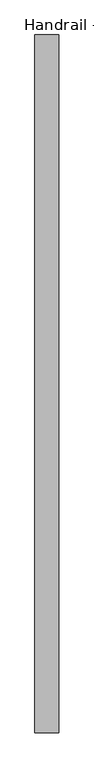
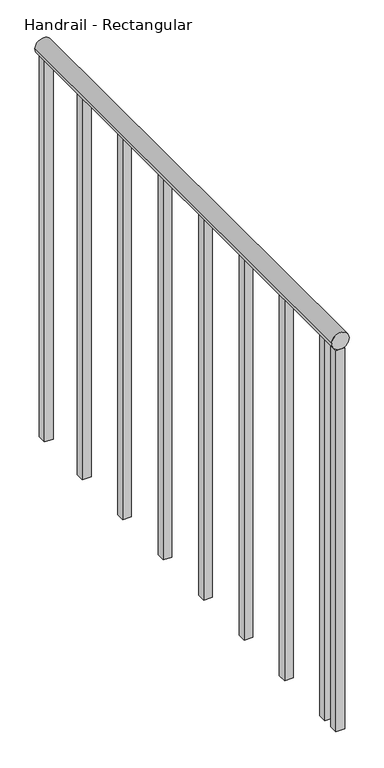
"""IFC4 building model written with IfcOpenShell, lengths in millimetres: railing geometry, Handrail - Rectangular."""

import ifcopenshell
import ifcopenshell.guid

model = None  # the IFC model being written
_history = None  # IfcOwnerHistory: only IFC2X3 demands one
_inside = {}  # id of a spatial element -> (the spatial element, [elements in it])
_under = {}  # id of a project, library or spatial element -> (it, [spatial elements below it])
_declared = {}  # id of a project -> (the project, [libraries it declares])
_typed = {}  # id of a type object -> (the type object, [elements of that type])
_made_of = {}  # id of a material, layer set ... -> (it, [elements and type objects made of it])


def new_model(schema):
    """Start an empty IFC model of exactly this schema.

    Asked for "IFC4X3", IfcOpenShell would pick the latest addendum, in which some entities
    have other attributes; the version numbers below select the first issue.
    IFC2X3 requires an IfcOwnerHistory on every rooted entity: one is made here for all.
    """
    global model, _history
    if schema == "IFC4X3":
        model = ifcopenshell.file(schema_version=(4, 3, 0, 0))
    else:
        model = ifcopenshell.file(schema=schema)
    _inside.clear()
    _under.clear()
    _declared.clear()
    _typed.clear()
    _made_of.clear()
    _history = None
    if model.schema == "IFC2X3":
        org = make("IfcOrganization", Name="unknown")
        user = make(
            "IfcPersonAndOrganization",
            ThePerson=make("IfcPerson", FamilyName="unknown"),
            TheOrganization=org,
        )
        app = make(
            "IfcApplication",
            ApplicationDeveloper=org,
            Version="unknown",
            ApplicationFullName="unknown",
            ApplicationIdentifier="unknown",
        )
        _history = make(
            "IfcOwnerHistory",
            OwningUser=user,
            OwningApplication=app,
            ChangeAction="ADDED",
            CreationDate=0,
        )
    return model


def make(cls, **values):
    """One entity of the class cls with the attributes given. An attribute that is None is left unset."""
    return model.create_entity(
        cls, **{name: value for name, value in values.items() if value is not None}
    )


def rooted(cls, **values):
    """An entity with a GlobalId (a new one), such as an element, a storey or a relation."""
    return make(cls, GlobalId=ifcopenshell.guid.new(), OwnerHistory=_history, **values)


def si_unit(unit_type, name, prefix=None):
    """IfcSIUnit, for example si_unit("LENGTHUNIT", "METRE", prefix="MILLI")."""
    return make("IfcSIUnit", UnitType=unit_type, Prefix=prefix, Name=name)


def assignment(units):
    """IfcUnitAssignment: the units of a project."""
    return None if units is None else make("IfcUnitAssignment", Units=units)


def point(xyz):
    """IfcCartesianPoint."""
    return None if xyz is None else make("IfcCartesianPoint", Coordinates=xyz)


def direction(xyz):
    """IfcDirection."""
    return None if xyz is None else make("IfcDirection", DirectionRatios=xyz)


def frame(location, z_axis=None, x_axis=None):
    """IfcAxis2Placement3D, a coordinate frame: its origin and axes. An axis left out is left unset."""
    return make(
        "IfcAxis2Placement3D",
        Location=point(location),
        Axis=direction(z_axis),
        RefDirection=direction(x_axis),
    )


def frame_2d(location, x_axis=None):
    """IfcAxis2Placement2D, a coordinate frame in the plane: its origin and x axis."""
    return make(
        "IfcAxis2Placement2D", Location=point(location), RefDirection=direction(x_axis)
    )


def origin():
    """The frame at (0, 0, 0) with its axes left unset."""
    return frame((0.0, 0.0, 0.0))


def place(relative_to, where):
    """IfcLocalPlacement: puts the frame where relative to a parent placement (None: the world)."""
    return make(
        "IfcLocalPlacement", PlacementRelTo=relative_to, RelativePlacement=where
    )


def context(
    kind, dimensions, precision=None, world=None, true_north=None, identifier=None
):
    """IfcGeometricRepresentationContext, for example the 3D "Model" context."""
    return make(
        "IfcGeometricRepresentationContext",
        ContextIdentifier=identifier,
        ContextType=kind,
        CoordinateSpaceDimension=dimensions,
        Precision=precision,
        WorldCoordinateSystem=world,
        TrueNorth=true_north,
    )


def project(units=None, contexts=None):
    """IfcProject with its units and contexts."""
    return rooted(
        "IfcProject",
        Name="project",
        RepresentationContexts=contexts,
        UnitsInContext=assignment(units),
    )


def spatial(cls, under=None, at=None, **own):
    """A site, building, storey or space (cls), placed at a placement, below another one or the project."""
    s = rooted(cls, ObjectPlacement=at, **own)
    if under is not None:
        _under.setdefault(under.id(), (under, []))[1].append(s)
    return s


def polyline(points):
    """IfcPolyline through the points."""
    return make("IfcPolyline", Points=[point(p) for p in points])


def circle_curve(where, radius):
    """IfcCircle in the frame where."""
    return make("IfcCircle", Position=where, Radius=radius)


def trimmed(basis, trim1, trim2, sense, master):
    """IfcTrimmedCurve: the piece of a basis curve between two trims."""
    return make(
        "IfcTrimmedCurve",
        BasisCurve=basis,
        Trim1=trim1,
        Trim2=trim2,
        SenseAgreement=sense,
        MasterRepresentation=master,
    )


def segment(curve, same_sense, transition):
    """IfcCompositeCurveSegment."""
    return make(
        "IfcCompositeCurveSegment",
        Transition=transition,
        SameSense=same_sense,
        ParentCurve=curve,
    )


def composite_curve(segments, self_intersect=None):
    """IfcCompositeCurve: segments joined end to end."""
    return make("IfcCompositeCurve", Segments=segments, SelfIntersect=self_intersect)


def outline(outer, holes=None, kind="AREA"):
    """IfcArbitraryClosedProfileDef: a profile drawn as a closed curve; with holes, ...WithVoids."""
    if holes is None:
        return make("IfcArbitraryClosedProfileDef", ProfileType=kind, OuterCurve=outer)
    return make(
        "IfcArbitraryProfileDefWithVoids",
        ProfileType=kind,
        OuterCurve=outer,
        InnerCurves=holes,
    )


def extrude(swept, where, along, depth):
    """IfcExtrudedAreaSolid: the profile swept, set in the frame where, extruded along a direction by depth."""
    return make(
        "IfcExtrudedAreaSolid",
        SweptArea=swept,
        Position=where,
        ExtrudedDirection=direction(along),
        Depth=depth,
    )


def shape(context_of_items, identifier, shape_type, items):
    """IfcShapeRepresentation: the items that make up one representation, for example the "Body"."""
    return make(
        "IfcShapeRepresentation",
        ContextOfItems=context_of_items,
        RepresentationIdentifier=identifier,
        RepresentationType=shape_type,
        Items=items,
    )


def source(mapping_origin, context_of_items, identifier, shape_type, items):
    """IfcRepresentationMap: a shape defined once, which mapped items show again and again."""
    return make(
        "IfcRepresentationMap",
        MappingOrigin=mapping_origin,
        MappedRepresentation=shape(context_of_items, identifier, shape_type, items),
    )


def transform(
    local_origin,
    x_axis=None,
    y_axis=None,
    z_axis=None,
    scale=None,
    scale2=None,
    scale3=None,
    uniform=True,
):
    """IfcCartesianTransformationOperator3D, or its non-uniform kind. x_axis, y_axis, z_axis: its Axis1, 2, 3."""
    if uniform:
        return make(
            "IfcCartesianTransformationOperator3D",
            Axis1=direction(x_axis),
            Axis2=direction(y_axis),
            LocalOrigin=point(local_origin),
            Scale=scale,
            Axis3=direction(z_axis),
        )
    return make(
        "IfcCartesianTransformationOperator3DnonUniform",
        Axis1=direction(x_axis),
        Axis2=direction(y_axis),
        LocalOrigin=point(local_origin),
        Scale=scale,
        Axis3=direction(z_axis),
        Scale2=scale2,
        Scale3=scale3,
    )


def mapped(mapping_source, mapping_target):
    """IfcMappedItem: shows the shape of a source again, moved by a transform."""
    return make(
        "IfcMappedItem", MappingSource=mapping_source, MappingTarget=mapping_target
    )


def made_of(thing, what):
    """Note that an element or type object is made of a material, layer set ...; save() writes the relation."""
    if what is not None:
        _made_of.setdefault(what.id(), (what, []))[1].append(thing)
    return thing


def element(
    cls,
    number,
    at=None,
    inside=None,
    cuts=None,
    type_object=None,
    material=None,
    context=None,
    identifier="Body",
    shape_type=None,
    held_by="IfcProductDefinitionShape",
    body=None,
    shapes=None,
    **own,
):
    """One element of the class cls, such as IfcWall. Its Tag is "e" and its number.

    at: its placement. inside: the storey or other place that contains it. cuts: it is an
    opening in that element (IfcRelVoidsElement). A single representation is given by context,
    identifier, shape_type and body (its items); several are given by shapes. held_by: the class
    of the entity that holds the representations. save() writes the other relations.
    """
    e = rooted(cls, Tag="e%d" % number, ObjectPlacement=at, **own)
    if body is not None:
        shapes = [shape(context, identifier, shape_type, body)]
    if shapes is not None:
        e.Representation = make(held_by, Representations=shapes)
    if inside is not None:
        _inside.setdefault(inside.id(), (inside, []))[1].append(e)
    if cuts is not None:
        rooted(
            "IfcRelVoidsElement", RelatingBuildingElement=cuts, RelatedOpeningElement=e
        )
    if type_object is not None:
        _typed.setdefault(type_object.id(), (type_object, []))[1].append(e)
    return made_of(e, material)


def aggregate(whole, parts):
    """IfcRelAggregates: a whole, such as a stair, and the parts it consists of."""
    return rooted("IfcRelAggregates", RelatingObject=whole, RelatedObjects=parts)


def save(model, path):
    """Write the relations noted so far, then the file.

    IfcRelAggregates (storeys below a building ...), IfcRelContainedInSpatialStructure (elements
    in a storey), IfcRelDefinesByType, IfcRelAssociatesMaterial and IfcRelDeclares: one each for
    every whole, place, type object, material and project.
    """
    for whole, parts in _under.values():
        aggregate(whole, parts)
    for where, things in _inside.values():
        rooted(
            "IfcRelContainedInSpatialStructure",
            RelatedElements=things,
            RelatingStructure=where,
        )
    for kind, things in _typed.values():
        rooted("IfcRelDefinesByType", RelatedObjects=things, RelatingType=kind)
    for what, things in _made_of.values():
        rooted("IfcRelAssociatesMaterial", RelatedObjects=things, RelatingMaterial=what)
    for by, libraries in _declared.values():
        rooted("IfcRelDeclares", RelatingContext=by, RelatedDefinitions=libraries)
    model.write(path)


def handrail_rectangular_fe4f68d6(model_context):
    return source(origin(), model_context, "Body", "SweptSolid", [
        extrude(outline(composite_curve([segment(trimmed(circle_curve(frame_2d((10039.35, -11418.8589563)), 19.05), [point((10039.35, -11399.8089563))], [point((10039.35, -11437.9089563))], False, "CARTESIAN"), True, "CONTINUOUS"), segment(trimmed(circle_curve(frame_2d((10039.35, -11418.8589563)), 19.05), [point((10039.35, -11437.9089563))], [point((10039.35, -11399.8089563))], False, "CARTESIAN"), True, "CONTINUOUS")], self_intersect=False)), frame((0.0, 10624.0316867, 0.0), z_axis=(0.0, 1.0, 0.0), x_axis=(0.0, 0.0, 1.0)), (0.0, 0.0, 1.0), 1117.6),
        extrude(outline(polyline([(-11428.3839563, 10684.3566867), (-11409.3339563, 10684.3566867), (-11409.3339563, 10665.3066867), (-11428.3839563, 10665.3066867), (-11428.3839563, 10684.3566867)])), frame((0.0, 0.0, 9144.0), z_axis=(0.0, 0.0, 1.0), x_axis=(1.0, 0.0, 0.0)), (0.0, 0.0, 1.0), 876.3),
        extrude(outline(polyline([(-11428.3839563, 10836.7566867), (-11409.3339563, 10836.7566867), (-11409.3339563, 10817.7066867), (-11428.3839563, 10817.7066867), (-11428.3839563, 10836.7566867)])), frame((0.0, 0.0, 9144.0), z_axis=(0.0, 0.0, 1.0), x_axis=(1.0, 0.0, 0.0)), (0.0, 0.0, 1.0), 876.3),
        extrude(outline(polyline([(-11428.3839563, 10989.1566867), (-11409.3339563, 10989.1566867), (-11409.3339563, 10970.1066867), (-11428.3839563, 10970.1066867), (-11428.3839563, 10989.1566867)])), frame((0.0, 0.0, 9144.0), z_axis=(0.0, 0.0, 1.0), x_axis=(1.0, 0.0, 0.0)), (0.0, 0.0, 1.0), 876.3),
        extrude(outline(polyline([(-11428.3839563, 11141.5566867), (-11409.3339563, 11141.5566867), (-11409.3339563, 11122.5066867), (-11428.3839563, 11122.5066867), (-11428.3839563, 11141.5566867)])), frame((0.0, 0.0, 9144.0), z_axis=(0.0, 0.0, 1.0), x_axis=(1.0, 0.0, 0.0)), (0.0, 0.0, 1.0), 876.3),
        extrude(outline(polyline([(-11428.3839563, 11293.9566867), (-11409.3339563, 11293.9566867), (-11409.3339563, 11274.9066867), (-11428.3839563, 11274.9066867), (-11428.3839563, 11293.9566867)])), frame((0.0, 0.0, 9144.0), z_axis=(0.0, 0.0, 1.0), x_axis=(1.0, 0.0, 0.0)), (0.0, 0.0, 1.0), 876.3),
        extrude(outline(polyline([(-11428.3839563, 11446.3566867), (-11409.3339563, 11446.3566867), (-11409.3339563, 11427.3066867), (-11428.3839563, 11427.3066867), (-11428.3839563, 11446.3566867)])), frame((0.0, 0.0, 9144.0), z_axis=(0.0, 0.0, 1.0), x_axis=(1.0, 0.0, 0.0)), (0.0, 0.0, 1.0), 876.3),
        extrude(outline(polyline([(-11428.3839563, 11598.7566867), (-11409.3339563, 11598.7566867), (-11409.3339563, 11579.7066867), (-11428.3839563, 11579.7066867), (-11428.3839563, 11598.7566867)])), frame((0.0, 0.0, 9144.0), z_axis=(0.0, 0.0, 1.0), x_axis=(1.0, 0.0, 0.0)), (0.0, 0.0, 1.0), 876.3),
        extrude(outline(polyline([(-11428.3839563, 10643.0816867), (-11409.3339563, 10643.0816867), (-11409.3339563, 10624.0316867), (-11428.3839563, 10624.0316867), (-11428.3839563, 10643.0816867)])), frame((0.0, 0.0, 9144.0), z_axis=(0.0, 0.0, 1.0), x_axis=(1.0, 0.0, 0.0)), (0.0, 0.0, 1.0), 876.3),
        extrude(outline(polyline([(-11428.3839563, 11741.6316867), (-11409.3339563, 11741.6316867), (-11409.3339563, 11722.5816867), (-11428.3839563, 11722.5816867), (-11428.3839563, 11741.6316867)])), frame((0.0, 0.0, 9144.0), z_axis=(0.0, 0.0, 1.0), x_axis=(1.0, 0.0, 0.0)), (0.0, 0.0, 1.0), 876.3),
    ])


if __name__ == "__main__":
    model = new_model("IFC4")
    model_context = context("Model", 3, world=origin())
    ifc_project = project(units=[si_unit("LENGTHUNIT", "METRE", prefix="MILLI")], contexts=[model_context])
    site = spatial("IfcSite", under=ifc_project)
    building = spatial("IfcBuilding", under=site)
    placement = place(None, origin())
    handrail_rectangular_shape = handrail_rectangular_fe4f68d6(model_context)
    element("IfcRailing", 1, ObjectType="Handrail - Rectangular", at=placement, inside=building, context=model_context, shape_type="MappedRepresentation", body=[
        mapped(handrail_rectangular_shape, transform((0.0, 0.0, 0.0), x_axis=(1.0, 0.0, 0.0), y_axis=(0.0, 1.0, 0.0), z_axis=(0.0, 0.0, 1.0))),
    ])
    save(model, "model.ifc")
